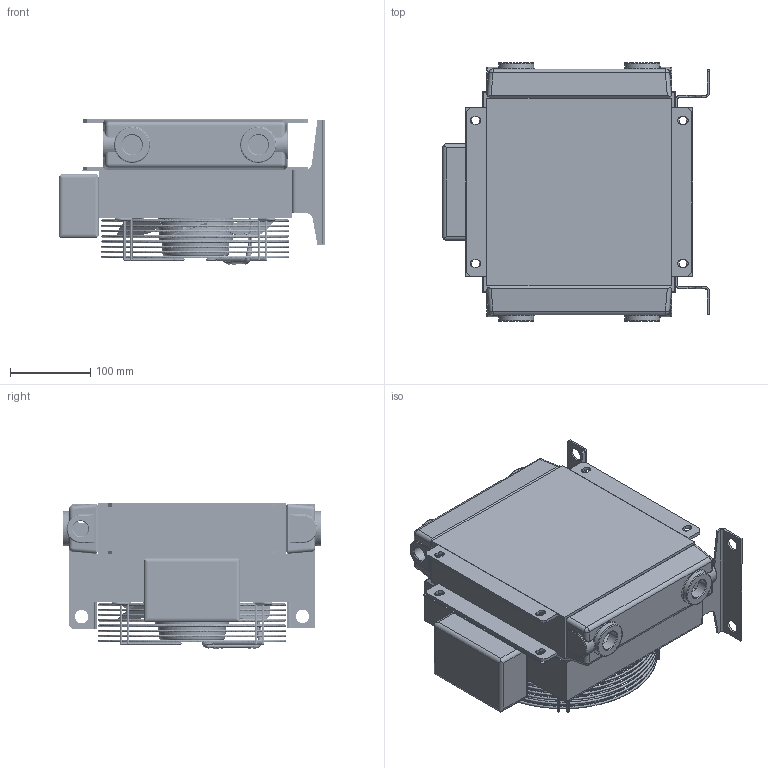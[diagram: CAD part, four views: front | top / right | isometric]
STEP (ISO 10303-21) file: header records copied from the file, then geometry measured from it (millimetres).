
FILE_DESCRIPTION(('STEP AP203'),'2;1');
FILE_NAME('SS2200300A-PE.stp','2008-06-30T11:35:51',(''),(''),'2008.1.107','THINKDESIGN','');
FILE_SCHEMA(('CONFIG_CONTROL_DESIGN'));
Bounding box: 332 x 322 x 180.61 mm (x, y, z)
Volume: 4411375.3 mm3; surface area: 790621.4 mm2
Topology: 15 solids, 15 shells, 1122 faces, 4362 edges, 3796 vertices
Faces by surface type: bspline 640, cylinder 296, plane 186
Full cylindrical faces by diameter (mm): 6.5 x8, 6.75 x4, 7 x4, 16.5 x4, 19 x1, 24.5 x2, 220 x1
Entity records: 66988 total; most frequent: CARTESIAN_POINT 44440, DIRECTION 3734, COMPOSITE_CURVE_SEGMENT 3050, ORIENTED_EDGE 2426, VECTOR 1590, LINE 1590, EDGE_CURVE 1213, TRIMMED_CURVE 1207
